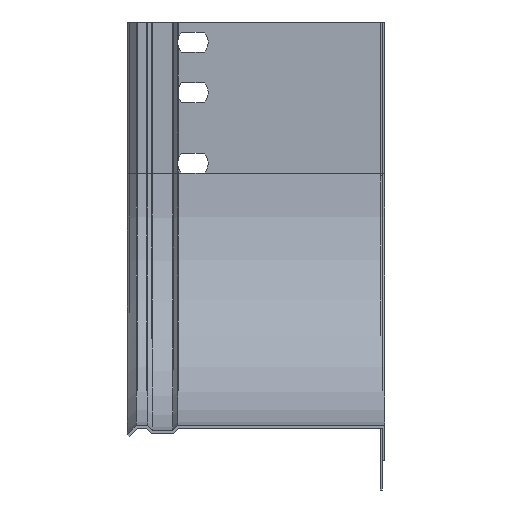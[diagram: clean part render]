
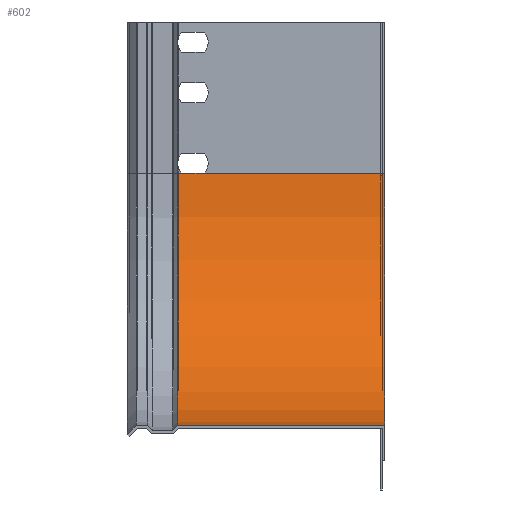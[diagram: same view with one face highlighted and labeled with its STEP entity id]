
A CAD part, left-side view. The second image highlights one B-rep face of the part: STEP entity #602.
In plain terms, the highlighted cylindrical face has radius 100 mm (diameter 200 mm), a partial arc.
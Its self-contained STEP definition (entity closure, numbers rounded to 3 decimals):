
#23 = EDGE_CURVE ( 'NONE', #4604, #2142, #4492, .T. ) ;
#46 = VERTEX_POINT ( 'NONE', #1477 ) ;
#247 = CARTESIAN_POINT ( 'NONE',  ( -160., 80.472, 60. ) ) ;
#369 = DIRECTION ( 'NONE',  ( 0., 0., -1. ) ) ;
#378 = VERTEX_POINT ( 'NONE', #247 ) ;
#432 = VECTOR ( 'NONE', #1022, 1000. ) ;
#439 = CARTESIAN_POINT ( 'NONE',  ( -160., 80.472, 60. ) ) ;
#443 = DIRECTION ( 'NONE',  ( 0., 1., 0. ) ) ;
#485 = AXIS2_PLACEMENT_3D ( 'NONE', #1250, #3074, #4510 ) ;
#508 = EDGE_CURVE ( 'NONE', #46, #4405, #2199, .T. ) ;
#582 = VECTOR ( 'NONE', #677, 1000. ) ;
#602 = ADVANCED_FACE ( 'NONE', ( #4557 ), #2729, .F. ) ;
#648 = LINE ( 'NONE', #1298, #582 ) ;
#677 = DIRECTION ( 'NONE',  ( 0., 1., 0. ) ) ;
#1013 = CARTESIAN_POINT ( 'NONE',  ( -160., 0., 60. ) ) ;
#1022 = DIRECTION ( 'NONE',  ( 0., 1., 0. ) ) ;
#1086 = CARTESIAN_POINT ( 'NONE',  ( -60., 0., 60. ) ) ;
#1115 = CIRCLE ( 'NONE', #1735, 100. ) ;
#1143 = LINE ( 'NONE', #2626, #4502 ) ;
#1250 = CARTESIAN_POINT ( 'NONE',  ( -60., 0., 60. ) ) ;
#1298 = CARTESIAN_POINT ( 'NONE',  ( -60., 0., 160. ) ) ;
#1399 = EDGE_CURVE ( 'NONE', #378, #3468, #1143, .T. ) ;
#1477 = CARTESIAN_POINT ( 'NONE',  ( -60., 0., 160. ) ) ;
#1579 = CIRCLE ( 'NONE', #3675, 100. ) ;
#1624 = EDGE_CURVE ( 'NONE', #46, #4604, #1115, .T. ) ;
#1676 = ORIENTED_EDGE ( 'NONE', *, *, #2257, .F. ) ;
#1714 = EDGE_CURVE ( 'NONE', #2142, #378, #1840, .T. ) ;
#1735 = AXIS2_PLACEMENT_3D ( 'NONE', #1086, #2567, #369 ) ;
#1840 = LINE ( 'NONE', #439, #2118 ) ;
#1876 = CARTESIAN_POINT ( 'NONE',  ( -60., 0., 160. ) ) ;
#2101 = VECTOR ( 'NONE', #443, 1000. ) ;
#2118 = VECTOR ( 'NONE', #2953, 1000. ) ;
#2142 = VERTEX_POINT ( 'NONE', #2475 ) ;
#2163 = CARTESIAN_POINT ( 'NONE',  ( -60., 80.472, 160. ) ) ;
#2199 = LINE ( 'NONE', #1876, #4650 ) ;
#2218 = ORIENTED_EDGE ( 'NONE', *, *, #508, .F. ) ;
#2231 = CARTESIAN_POINT ( 'NONE',  ( -160., 0., 60. ) ) ;
#2257 = EDGE_CURVE ( 'NONE', #3418, #3468, #1579, .T. ) ;
#2335 = ORIENTED_EDGE ( 'NONE', *, *, #1714, .T. ) ;
#2395 = CARTESIAN_POINT ( 'NONE',  ( -60., 71.528, 160. ) ) ;
#2475 = CARTESIAN_POINT ( 'NONE',  ( -160., 71.528, 60. ) ) ;
#2567 = DIRECTION ( 'NONE',  ( 0., -1., 0. ) ) ;
#2626 = CARTESIAN_POINT ( 'NONE',  ( -160., 0., 60. ) ) ;
#2649 = DIRECTION ( 'NONE',  ( 0., -1., 0. ) ) ;
#2729 = CYLINDRICAL_SURFACE ( 'NONE', #485, 100. ) ;
#2923 = ORIENTED_EDGE ( 'NONE', *, *, #3200, .F. ) ;
#2953 = DIRECTION ( 'NONE',  ( 0., 1., 0. ) ) ;
#3009 = CARTESIAN_POINT ( 'NONE',  ( -60., 82., 160. ) ) ;
#3074 = DIRECTION ( 'NONE',  ( 0., -1., 0. ) ) ;
#3200 = EDGE_CURVE ( 'NONE', #4262, #3418, #648, .T. ) ;
#3255 = LINE ( 'NONE', #4390, #432 ) ;
#3418 = VERTEX_POINT ( 'NONE', #3009 ) ;
#3468 = VERTEX_POINT ( 'NONE', #4494 ) ;
#3675 = AXIS2_PLACEMENT_3D ( 'NONE', #4481, #2649, #4036 ) ;
#3772 = DIRECTION ( 'NONE',  ( 0., 1., 0. ) ) ;
#4006 = ORIENTED_EDGE ( 'NONE', *, *, #1399, .T. ) ;
#4036 = DIRECTION ( 'NONE',  ( 0., 0., -1. ) ) ;
#4164 = DIRECTION ( 'NONE',  ( 0., 1., 0. ) ) ;
#4184 = EDGE_LOOP ( 'NONE', ( #2218, #4311, #4336, #2335, #4006, #1676, #2923, #4555 ) ) ;
#4260 = EDGE_CURVE ( 'NONE', #4405, #4262, #3255, .T. ) ;
#4262 = VERTEX_POINT ( 'NONE', #2163 ) ;
#4311 = ORIENTED_EDGE ( 'NONE', *, *, #1624, .T. ) ;
#4336 = ORIENTED_EDGE ( 'NONE', *, *, #23, .T. ) ;
#4390 = CARTESIAN_POINT ( 'NONE',  ( -60., 80.472, 160. ) ) ;
#4405 = VERTEX_POINT ( 'NONE', #2395 ) ;
#4481 = CARTESIAN_POINT ( 'NONE',  ( -60., 82., 60. ) ) ;
#4492 = LINE ( 'NONE', #2231, #2101 ) ;
#4494 = CARTESIAN_POINT ( 'NONE',  ( -160., 82., 60. ) ) ;
#4502 = VECTOR ( 'NONE', #4164, 1000. ) ;
#4510 = DIRECTION ( 'NONE',  ( 0., 0., -1. ) ) ;
#4555 = ORIENTED_EDGE ( 'NONE', *, *, #4260, .F. ) ;
#4557 = FACE_OUTER_BOUND ( 'NONE', #4184, .T. ) ;
#4604 = VERTEX_POINT ( 'NONE', #1013 ) ;
#4650 = VECTOR ( 'NONE', #3772, 1000. ) ;
